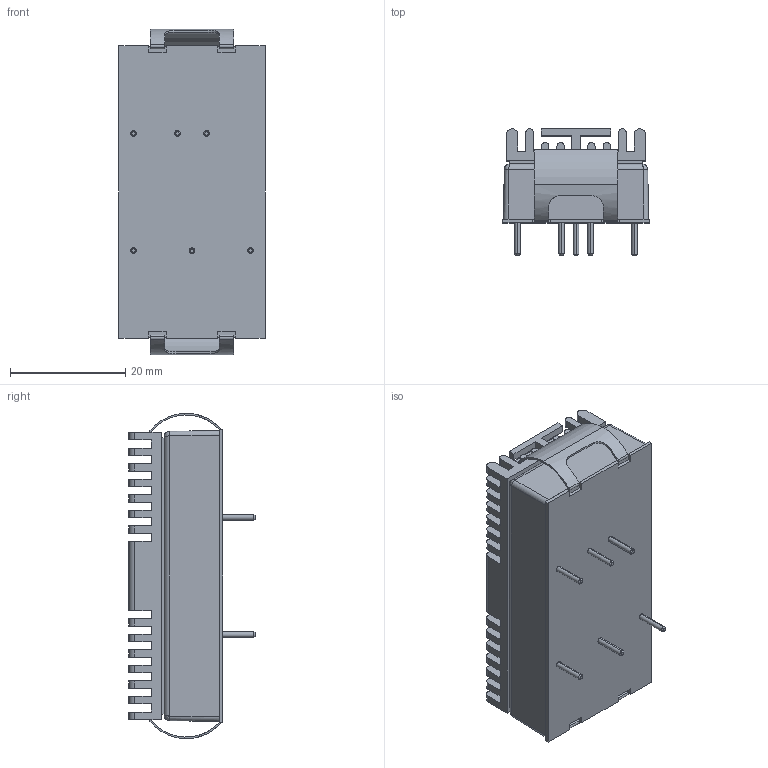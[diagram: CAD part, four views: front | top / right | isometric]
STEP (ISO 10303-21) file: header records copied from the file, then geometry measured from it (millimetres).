
FILE_DESCRIPTION (( 'STEP AP214' ), '1' );
FILE_NAME ('TEN 20WIN-HS.STEP', '2018-11-22T08:04:04', ( 'user' ), ( '' ), 'SwSTEP 2.0', 'SolidWorks 2016', '' );
FILE_SCHEMA (( 'AUTOMOTIVE_DESIGN' ));
Length unit declared in the file: millimetre
Products named in the file (5): Clamp; Heatsink; Heatfilm; Converter; TEN 20WIN-HS
Assembly tree (5 placements, depth 2):
  TEN 20WIN-HS
    Converter
    Heatfilm
    Heatsink
    Clamp  x2
Bounding box: 25.4 x 21.9 x 56.47 mm (x, y, z)
Volume: 17072.6 mm3; surface area: 13377.4 mm2
Topology: 5 solids, 5 shells, 835 faces, 2160 edges, 1424 vertices
Faces by surface type: plane 655, cylinder 164, cone 12, bspline 4
Entity records: 33235 total; most frequent: CARTESIAN_POINT 4623, ORIENTED_EDGE 4140, DIRECTION 3976, EDGE_CURVE 2070, LINE 1750, VECTOR 1750, VERTEX_POINT 1368, AXIS2_PLACEMENT_3D 1113
